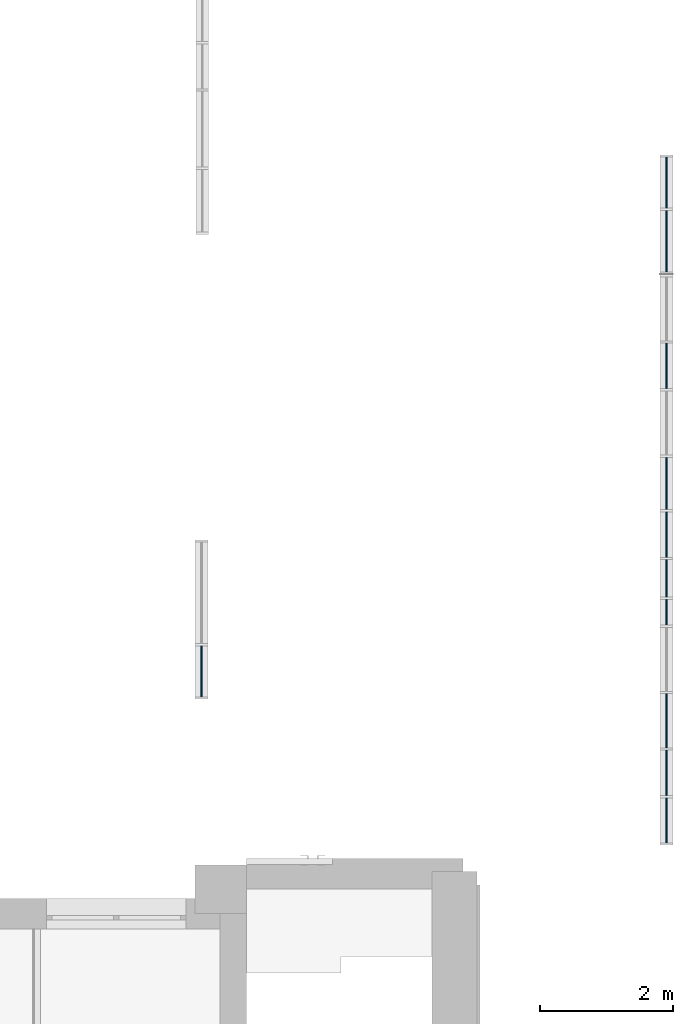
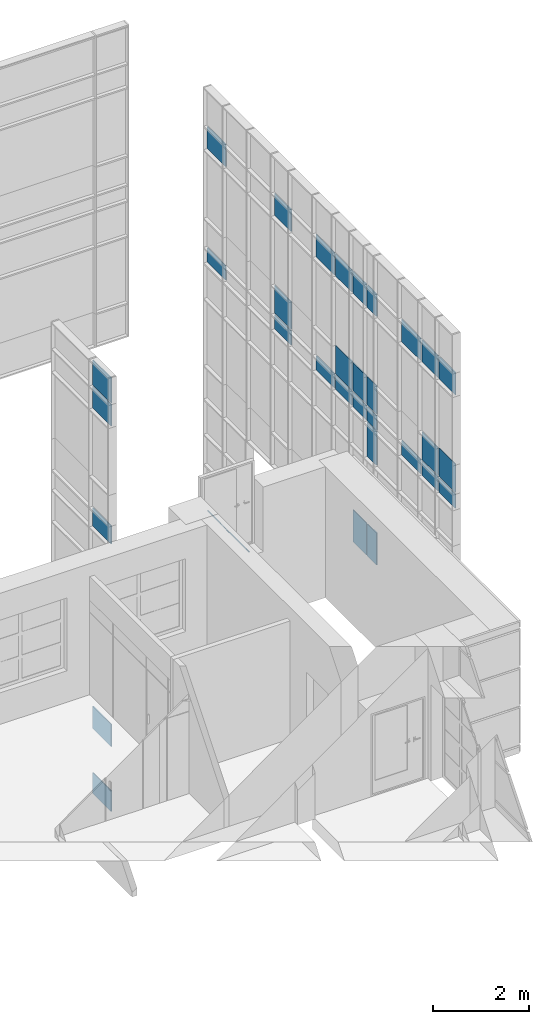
# One storey, part 43 of 73: 34 plates, 2 elements without a shape of their own.
"""IFC2X3 building model written with IfcOpenShell, lengths in millimetres."""

from ifc_helpers import new_model, entity, si_unit, converted_unit, derived_unit, direction, frame, origin, origin_2d_with_axis, place, context, subcontext, project, spatial, rectangle, extrude, source, transform, mapped, material, layer, layer_set, layer_usage, type_object, type_shapes, element, aggregate, save


model = new_model("IFC2X3")

# Units and contexts
model_context = context("Model", 3, precision=0.01, world=origin(), true_north=direction((6.12303176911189e-17, 1.0)))
body_context = subcontext(model_context, "Body", "Model", "MODEL_VIEW")
ifc_project = project(units=[si_unit("LENGTHUNIT", "METRE", prefix="MILLI"), si_unit("AREAUNIT", "SQUARE_METRE"), si_unit("VOLUMEUNIT", "CUBIC_METRE"), converted_unit("PLANEANGLEUNIT", "DEGREE", entity("IfcRatioMeasure", 0.0174532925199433), si_unit("PLANEANGLEUNIT", "RADIAN"), dimensions=[0, 0, 0, 0, 0, 0, 0]), si_unit("MASSUNIT", "GRAM", prefix="KILO"), derived_unit("MASSDENSITYUNIT", [(si_unit("MASSUNIT", "GRAM", prefix="KILO"), 1), (si_unit("LENGTHUNIT", "METRE"), -3)]), si_unit("TIMEUNIT", "SECOND"), si_unit("FREQUENCYUNIT", "HERTZ"), si_unit("THERMODYNAMICTEMPERATUREUNIT", "DEGREE_CELSIUS"), derived_unit("THERMALTRANSMITTANCEUNIT", [(si_unit("MASSUNIT", "GRAM", prefix="KILO"), 1), (si_unit("THERMODYNAMICTEMPERATUREUNIT", "KELVIN"), -1), (si_unit("TIMEUNIT", "SECOND"), -3)]), derived_unit("VOLUMETRICFLOWRATEUNIT", [(si_unit("LENGTHUNIT", "METRE"), 3), (si_unit("TIMEUNIT", "SECOND"), -1)]), si_unit("ELECTRICCURRENTUNIT", "AMPERE"), si_unit("ELECTRICVOLTAGEUNIT", "VOLT"), si_unit("POWERUNIT", "WATT"), si_unit("FORCEUNIT", "NEWTON", prefix="KILO"), si_unit("ILLUMINANCEUNIT", "LUX"), si_unit("LUMINOUSFLUXUNIT", "LUMEN"), si_unit("LUMINOUSINTENSITYUNIT", "CANDELA"), derived_unit("USERDEFINED", [(si_unit("MASSUNIT", "GRAM", prefix="KILO"), -1), (si_unit("LENGTHUNIT", "METRE"), -2), (si_unit("TIMEUNIT", "SECOND"), 3), (si_unit("LUMINOUSFLUXUNIT", "LUMEN"), 1)]), derived_unit("LINEARVELOCITYUNIT", [(si_unit("LENGTHUNIT", "METRE"), 1), (si_unit("TIMEUNIT", "SECOND"), -1)]), si_unit("PRESSUREUNIT", "PASCAL"), derived_unit("USERDEFINED", [(si_unit("LENGTHUNIT", "METRE"), -2), (si_unit("MASSUNIT", "GRAM", prefix="KILO"), 1), (si_unit("TIMEUNIT", "SECOND"), -2)])], contexts=[model_context])

# Site, building, storey
site_placement = place(None, frame((-151.875543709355, 2715.0, 0.0)))
site = spatial("IfcSite", under=ifc_project, at=site_placement, Name="Surface", CompositionType="ELEMENT")
building_placement = place(site_placement, origin())
building = spatial("IfcBuilding", under=site, at=building_placement, CompositionType="ELEMENT")
storey_placement = place(building_placement, frame((0.0, 0.0, 6730.43000000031)))
storey = spatial("IfcBuildingStorey", under=building, at=storey_placement, Name="3 korrus", CompositionType="ELEMENT", Elevation=6730.43000000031)

# Curtain wall, plates
curtain_wall_type = type_object("IfcCurtainWallType", Name="Curtain Wall:Klaasfassaad", PredefinedType="NOTDEFINED")
curtain_wall_1_placement = place(storey_placement, frame((0.0, 0.0, -6730.43000000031)))
curtain_wall_1 = element("IfcCurtainWall", 1, at=curtain_wall_1_placement, inside=storey, type_object=curtain_wall_type, Name="Curtain Wall:Klaasfassaad", ObjectType="Curtain Wall:Klaasfassaad")
ifc_material = material(Name="<Unnamed>")
ifc_layer = layer(ifc_material, 20.0)
ifc_layer_set = layer_set([ifc_layer], Name="Curtain Wall:Klaassein KLS-01")
ifc_layer_usage_1 = layer_usage(ifc_layer_set, "AXIS3", "POSITIVE", 0.0)
plate_type_1 = type_object("IfcPlateType", Name="Glazed", PredefinedType="CURTAIN_PANEL", material=ifc_layer_set)
shared_shape_1 = source(origin(), body_context, "Body", "SweptSolid", [
    extrude(rectangle(XDim=20.0, YDim=927.500026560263, at=origin_2d_with_axis()), frame((0.0, 0.0, 0.0), z_axis=(0.0, 0.0, 1.0), x_axis=(0.0, 1.0, 0.0)), (0.0, 0.0, 1.0), 5.57226994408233),
])
type_shapes(plate_type_1, [shared_shape_1])
plate_1_placement = place(curtain_wall_1_placement, frame((38701.6162681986, 22509.250443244, 1014.42774474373), z_axis=(0.0, 0.0, 1.0), x_axis=(0.0, 1.0, 0.0)))
plate_1 = element("IfcPlate", 2, at=plate_1_placement, type_object=plate_type_1, material=ifc_layer_usage_1, Name="System Panel:Glazed", ObjectType="Glazed", context=body_context, shape_type="MappedRepresentation", body=[
    mapped(shared_shape_1, transform((0.0, 0.0, 0.0), scale=1.0)),
])
ifc_layer_usage_2 = layer_usage(ifc_layer_set, "AXIS3", "POSITIVE", 0.0)
plate_type_2 = type_object("IfcPlateType", Name="Glazed", PredefinedType="CURTAIN_PANEL", material=ifc_layer_set)
shared_shape_2 = source(origin(), body_context, "Body", "SweptSolid", [
    extrude(rectangle(XDim=20.0, YDim=767.500000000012, at=origin_2d_with_axis()), frame((0.0, 0.0, 0.0), z_axis=(0.0, 0.0, 1.0), x_axis=(0.0, 1.0, 0.0)), (0.0, 0.0, 1.0), 5.5722699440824),
])
type_shapes(plate_type_2, [shared_shape_2])
plate_2_placement = place(curtain_wall_1_placement, frame((38701.6162681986, 23391.7504565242, 1014.42774474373), z_axis=(0.0, 0.0, 1.0), x_axis=(0.0, 1.0, 0.0)))
plate_2 = element("IfcPlate", 3, at=plate_2_placement, type_object=plate_type_2, material=ifc_layer_usage_2, Name="System Panel:Glazed", ObjectType="Glazed", context=body_context, shape_type="MappedRepresentation", body=[
    mapped(shared_shape_2, transform((0.0, 0.0, 0.0), scale=1.0)),
])
ifc_layer_usage_3 = layer_usage(ifc_layer_set, "AXIS3", "POSITIVE", 0.0)
plate_type_3 = type_object("IfcPlateType", Name="Glazed", PredefinedType="CURTAIN_PANEL", material=ifc_layer_set)
shared_shape_3 = source(origin(), body_context, "Body", "SweptSolid", [
    extrude(rectangle(XDim=20.0, YDim=384.999999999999, at=origin_2d_with_axis()), frame((0.0, 0.0, 0.0), z_axis=(0.0, 0.0, 1.0), x_axis=(0.0, 1.0, 0.0)), (0.0, 0.0, 1.0), 815.159729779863),
])
type_shapes(plate_type_3, [shared_shape_3])
plate_3_placement = place(curtain_wall_1_placement, frame((38701.6162681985, 16920.5004565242, 3909.42773967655), z_axis=(0.0, 0.0, 1.0), x_axis=(0.0, 1.0, 0.0)))
plate_3 = element("IfcPlate", 4, at=plate_3_placement, type_object=plate_type_3, material=ifc_layer_usage_3, Name="System Panel:Glazed", ObjectType="Glazed", context=body_context, shape_type="MappedRepresentation", body=[
    mapped(shared_shape_3, transform((0.0, 0.0, 0.0), scale=1.0)),
])
ifc_layer_usage_4 = layer_usage(ifc_layer_set, "AXIS3", "POSITIVE", 0.0)
plate_type_4 = type_object("IfcPlateType", Name="Glazed", PredefinedType="CURTAIN_PANEL", material=ifc_layer_set)
shared_shape_4 = source(origin(), body_context, "Body", "SweptSolid", [
    extrude(rectangle(XDim=20.0, YDim=564.999999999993, at=origin_2d_with_axis()), frame((0.0, 0.0, 0.0), z_axis=(0.0, 0.0, 1.0), x_axis=(0.0, 1.0, 0.0)), (0.0, 0.0, 1.0), 815.159729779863),
])
type_shapes(plate_type_4, [shared_shape_4])
plate_4_placement = place(curtain_wall_1_placement, frame((38701.6162681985, 17430.5004565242, 3909.42773967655), z_axis=(0.0, 0.0, 1.0), x_axis=(0.0, 1.0, 0.0)))
plate_4 = element("IfcPlate", 5, at=plate_4_placement, type_object=plate_type_4, material=ifc_layer_usage_4, Name="System Panel:Glazed", ObjectType="Glazed", context=body_context, shape_type="MappedRepresentation", body=[
    mapped(shared_shape_4, transform((0.0, 0.0, 0.0), scale=1.0)),
])
ifc_layer_usage_5 = layer_usage(ifc_layer_set, "AXIS3", "POSITIVE", 0.0)
plate_type_5 = type_object("IfcPlateType", Name="Glazed", PredefinedType="CURTAIN_PANEL", material=ifc_layer_set)
shared_shape_5 = source(origin(), body_context, "Body", "SweptSolid", [
    extrude(rectangle(XDim=20.0, YDim=384.999999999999, at=origin_2d_with_axis()), frame((0.0, 0.0, 0.0), z_axis=(0.0, 0.0, 1.0), x_axis=(0.0, 1.0, 0.0)), (0.0, 0.0, 1.0), 865.0),
])
type_shapes(plate_type_5, [shared_shape_5])
plate_5_placement = place(curtain_wall_1_placement, frame((38701.6162681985, 16920.5004565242, 6442.40692901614), z_axis=(0.0, 0.0, 1.0), x_axis=(0.0, 1.0, 0.0)))
plate_5 = element("IfcPlate", 6, at=plate_5_placement, type_object=plate_type_5, material=ifc_layer_usage_5, Name="System Panel:Glazed", ObjectType="Glazed", context=body_context, shape_type="MappedRepresentation", body=[
    mapped(shared_shape_5, transform((0.0, 0.0, 0.0), scale=1.0)),
])
ifc_layer_usage_6 = layer_usage(ifc_layer_set, "AXIS3", "POSITIVE", 0.0)
plate_type_6 = type_object("IfcPlateType", Name="Glazed", PredefinedType="CURTAIN_PANEL", material=ifc_layer_set)
shared_shape_6 = source(origin(), body_context, "Body", "SweptSolid", [
    extrude(rectangle(XDim=20.0, YDim=677.500026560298, at=origin_2d_with_axis()), frame((0.0, 0.0, 0.0), z_axis=(0.0, 0.0, 1.0), x_axis=(0.0, 1.0, 0.0)), (0.0, 0.0, 1.0), 364.999999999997),
])
type_shapes(plate_type_6, [shared_shape_6])
plate_6_placement = place(curtain_wall_1_placement, frame((38701.6162681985, 13784.2504432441, 7342.40692901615), z_axis=(0.0, 0.0, 1.0), x_axis=(0.0, 1.0, 0.0)))
plate_6 = element("IfcPlate", 7, at=plate_6_placement, type_object=plate_type_6, material=ifc_layer_usage_6, Name="System Panel:Glazed", ObjectType="Glazed", context=body_context, shape_type="MappedRepresentation", body=[
    mapped(shared_shape_6, transform((0.0, 0.0, 0.0), scale=1.0)),
])
ifc_layer_usage_7 = layer_usage(ifc_layer_set, "AXIS3", "POSITIVE", 0.0)
plate_type_7 = type_object("IfcPlateType", Name="Glazed", PredefinedType="CURTAIN_PANEL", material=ifc_layer_set)
shared_shape_7 = source(origin(), body_context, "Body", "SweptSolid", [
    extrude(rectangle(XDim=20.0, YDim=684.999999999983, at=origin_2d_with_axis()), frame((0.0, 0.0, 0.0), z_axis=(0.0, 0.0, 1.0), x_axis=(0.0, 1.0, 0.0)), (0.0, 0.0, 1.0), 364.999999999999),
])
type_shapes(plate_type_7, [shared_shape_7])
plate_7_placement = place(curtain_wall_1_placement, frame((38701.6162681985, 14500.5004565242, 7342.40692901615), z_axis=(0.0, 0.0, 1.0), x_axis=(0.0, 1.0, 0.0)))
plate_7 = element("IfcPlate", 8, at=plate_7_placement, type_object=plate_type_7, material=ifc_layer_usage_7, Name="System Panel:Glazed", ObjectType="Glazed", context=body_context, shape_type="MappedRepresentation", body=[
    mapped(shared_shape_7, transform((0.0, 0.0, 0.0), scale=1.0)),
])
ifc_layer_usage_8 = layer_usage(ifc_layer_set, "AXIS3", "POSITIVE", 0.0)
plate_8_placement = place(curtain_wall_1_placement, frame((38701.6162681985, 18090.5004565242, 7342.40692901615), z_axis=(0.0, 0.0, 1.0), x_axis=(0.0, 1.0, 0.0)))
plate_8 = element("IfcPlate", 9, at=plate_8_placement, type_object=plate_type_7, material=ifc_layer_usage_8, Name="System Panel:Glazed", ObjectType="Glazed", context=body_context, shape_type="MappedRepresentation", body=[
    mapped(shared_shape_7, transform((0.0, 0.0, 0.0), scale=1.0)),
])
ifc_layer_usage_9 = layer_usage(ifc_layer_set, "AXIS3", "POSITIVE", 0.0)
plate_9_placement = place(curtain_wall_1_placement, frame((38701.6162681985, 20630.5004565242, 7342.40692901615), z_axis=(0.0, 0.0, 1.0), x_axis=(0.0, 1.0, 0.0)))
plate_9 = element("IfcPlate", 10, at=plate_9_placement, type_object=plate_type_7, material=ifc_layer_usage_9, Name="System Panel:Glazed", ObjectType="Glazed", context=body_context, shape_type="MappedRepresentation", body=[
    mapped(shared_shape_7, transform((0.0, 0.0, 0.0), scale=1.0)),
])
ifc_layer_usage_10 = layer_usage(ifc_layer_set, "AXIS3", "POSITIVE", 0.0)
plate_type_8 = type_object("IfcPlateType", Name="Glazed", PredefinedType="CURTAIN_PANEL", material=ifc_layer_set)
shared_shape_8 = source(origin(), body_context, "Body", "SweptSolid", [
    extrude(rectangle(XDim=20.0, YDim=814.999999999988, at=origin_2d_with_axis()), frame((0.0, 0.0, 0.0), z_axis=(0.0, 0.0, 1.0), x_axis=(0.0, 1.0, 0.0)), (0.0, 0.0, 1.0), 364.999999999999),
])
type_shapes(plate_type_8, [shared_shape_8])
plate_10_placement = place(curtain_wall_1_placement, frame((38701.6162681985, 15285.5004565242, 7342.40692901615), z_axis=(0.0, 0.0, 1.0), x_axis=(0.0, 1.0, 0.0)))
plate_10 = element("IfcPlate", 11, at=plate_10_placement, type_object=plate_type_8, material=ifc_layer_usage_10, Name="System Panel:Glazed", ObjectType="Glazed", context=body_context, shape_type="MappedRepresentation", body=[
    mapped(shared_shape_8, transform((0.0, 0.0, 0.0), scale=1.0)),
])
ifc_layer_usage_11 = layer_usage(ifc_layer_set, "AXIS3", "POSITIVE", 0.0)
plate_type_9 = type_object("IfcPlateType", Name="Glazed", PredefinedType="CURTAIN_PANEL", material=ifc_layer_set)
shared_shape_9 = source(origin(), body_context, "Body", "SweptSolid", [
    extrude(rectangle(XDim=20.0, YDim=384.999999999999, at=origin_2d_with_axis()), frame((0.0, 0.0, 0.0), z_axis=(0.0, 0.0, 1.0), x_axis=(0.0, 1.0, 0.0)), (0.0, 0.0, 1.0), 364.999999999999),
])
type_shapes(plate_type_9, [shared_shape_9])
plate_11_placement = place(curtain_wall_1_placement, frame((38701.6162681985, 16920.5004565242, 7342.40692901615), z_axis=(0.0, 0.0, 1.0), x_axis=(0.0, 1.0, 0.0)))
plate_11 = element("IfcPlate", 12, at=plate_11_placement, type_object=plate_type_9, material=ifc_layer_usage_11, Name="System Panel:Glazed", ObjectType="Glazed", context=body_context, shape_type="MappedRepresentation", body=[
    mapped(shared_shape_9, transform((0.0, 0.0, 0.0), scale=1.0)),
])
ifc_layer_usage_12 = layer_usage(ifc_layer_set, "AXIS3", "POSITIVE", 0.0)
plate_type_10 = type_object("IfcPlateType", Name="Glazed", PredefinedType="CURTAIN_PANEL", material=ifc_layer_set)
shared_shape_10 = source(origin(), body_context, "Body", "SweptSolid", [
    extrude(rectangle(XDim=20.0, YDim=564.999999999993, at=origin_2d_with_axis()), frame((0.0, 0.0, 0.0), z_axis=(0.0, 0.0, 1.0), x_axis=(0.0, 1.0, 0.0)), (0.0, 0.0, 1.0), 364.999999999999),
])
type_shapes(plate_type_10, [shared_shape_10])
plate_12_placement = place(curtain_wall_1_placement, frame((38701.6162681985, 17430.5004565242, 7342.40692901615), z_axis=(0.0, 0.0, 1.0), x_axis=(0.0, 1.0, 0.0)))
plate_12 = element("IfcPlate", 13, at=plate_12_placement, type_object=plate_type_10, material=ifc_layer_usage_12, Name="System Panel:Glazed", ObjectType="Glazed", context=body_context, shape_type="MappedRepresentation", body=[
    mapped(shared_shape_10, transform((0.0, 0.0, 0.0), scale=1.0)),
])
ifc_layer_usage_13 = layer_usage(ifc_layer_set, "AXIS3", "POSITIVE", 0.0)
plate_type_11 = type_object("IfcPlateType", Name="Glazed", PredefinedType="CURTAIN_PANEL", material=ifc_layer_set)
shared_shape_11 = source(origin(), body_context, "Body", "SweptSolid", [
    extrude(rectangle(XDim=20.0, YDim=784.999999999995, at=origin_2d_with_axis()), frame((0.0, 0.0, 0.0), z_axis=(0.0, 0.0, 1.0), x_axis=(0.0, 1.0, 0.0)), (0.0, 0.0, 1.0), 364.999999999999),
])
type_shapes(plate_type_11, [shared_shape_11])
plate_13_placement = place(curtain_wall_1_placement, frame((38701.6162681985, 18860.5004565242, 7342.40692901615), z_axis=(0.0, 0.0, 1.0), x_axis=(0.0, 1.0, 0.0)))
plate_13 = element("IfcPlate", 14, at=plate_13_placement, type_object=plate_type_11, material=ifc_layer_usage_13, Name="System Panel:Glazed", ObjectType="Glazed", context=body_context, shape_type="MappedRepresentation", body=[
    mapped(shared_shape_11, transform((0.0, 0.0, 0.0), scale=1.0)),
])
ifc_layer_usage_14 = layer_usage(ifc_layer_set, "AXIS3", "POSITIVE", 0.0)
plate_type_12 = type_object("IfcPlateType", Name="Glazed", PredefinedType="CURTAIN_PANEL", material=ifc_layer_set)
shared_shape_12 = source(origin(), body_context, "Body", "SweptSolid", [
    extrude(rectangle(XDim=20.0, YDim=767.500000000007, at=origin_2d_with_axis()), frame((0.0, 0.0, 0.0), z_axis=(0.0, 0.0, 1.0), x_axis=(0.0, 1.0, 0.0)), (0.0, 0.0, 1.0), 364.999999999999),
])
type_shapes(plate_type_12, [shared_shape_12])
plate_14_placement = place(curtain_wall_1_placement, frame((38701.6162681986, 23391.7504565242, 7342.40692901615), z_axis=(0.0, 0.0, 1.0), x_axis=(0.0, 1.0, 0.0)))
plate_14 = element("IfcPlate", 15, at=plate_14_placement, type_object=plate_type_12, material=ifc_layer_usage_14, Name="System Panel:Glazed", ObjectType="Glazed", context=body_context, shape_type="MappedRepresentation", body=[
    mapped(shared_shape_12, transform((0.0, 0.0, 0.0), scale=1.0)),
])
ifc_layer_usage_15 = layer_usage(ifc_layer_set, "AXIS3", "POSITIVE", 0.0)
plate_type_13 = type_object("IfcPlateType", Name="Glazed", PredefinedType="CURTAIN_PANEL", material=ifc_layer_set)
shared_shape_13 = source(origin(), body_context, "Body", "SweptSolid", [
    extrude(rectangle(XDim=20.0, YDim=677.500026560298, at=origin_2d_with_axis()), frame((0.0, 0.0, 0.0), z_axis=(0.0, 0.0, 1.0), x_axis=(0.0, 1.0, 0.0)), (0.0, 0.0, 1.0), 722.500000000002),
])
type_shapes(plate_type_13, [shared_shape_13])
plate_15_placement = place(curtain_wall_1_placement, frame((38701.6162681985, 13784.2504432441, 7742.40692901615), z_axis=(0.0, 0.0, 1.0), x_axis=(0.0, 1.0, 0.0)))
plate_15 = element("IfcPlate", 16, at=plate_15_placement, type_object=plate_type_13, material=ifc_layer_usage_15, Name="System Panel:Glazed", ObjectType="Glazed", context=body_context, shape_type="MappedRepresentation", body=[
    mapped(shared_shape_13, transform((0.0, 0.0, 0.0), scale=1.0)),
])
ifc_layer_usage_16 = layer_usage(ifc_layer_set, "AXIS3", "POSITIVE", 0.0)
plate_type_14 = type_object("IfcPlateType", Name="Glazed", PredefinedType="CURTAIN_PANEL", material=ifc_layer_set)
shared_shape_14 = source(origin(), body_context, "Body", "SweptSolid", [
    extrude(rectangle(XDim=20.0, YDim=684.999999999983, at=origin_2d_with_axis()), frame((0.0, 0.0, 0.0), z_axis=(0.0, 0.0, 1.0), x_axis=(0.0, 1.0, 0.0)), (0.0, 0.0, 1.0), 705.0),
])
type_shapes(plate_type_14, [shared_shape_14])
plate_16_placement = place(curtain_wall_1_placement, frame((38701.6162681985, 14500.5004565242, 7742.40692901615), z_axis=(0.0, 0.0, 1.0), x_axis=(0.0, 1.0, 0.0)))
plate_16 = element("IfcPlate", 17, at=plate_16_placement, type_object=plate_type_14, material=ifc_layer_usage_16, Name="System Panel:Glazed", ObjectType="Glazed", context=body_context, shape_type="MappedRepresentation", body=[
    mapped(shared_shape_14, transform((0.0, 0.0, 0.0), scale=1.0)),
])
ifc_layer_usage_17 = layer_usage(ifc_layer_set, "AXIS3", "POSITIVE", 0.0)
plate_17_placement = place(curtain_wall_1_placement, frame((38701.6162681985, 20630.5004565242, 7742.40692901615), z_axis=(0.0, 0.0, 1.0), x_axis=(0.0, 1.0, 0.0)))
plate_17 = element("IfcPlate", 18, at=plate_17_placement, type_object=plate_type_14, material=ifc_layer_usage_17, Name="System Panel:Glazed", ObjectType="Glazed", context=body_context, shape_type="MappedRepresentation", body=[
    mapped(shared_shape_14, transform((0.0, 0.0, 0.0), scale=1.0)),
])
ifc_layer_usage_18 = layer_usage(ifc_layer_set, "AXIS3", "POSITIVE", 0.0)
plate_type_15 = type_object("IfcPlateType", Name="Glazed", PredefinedType="CURTAIN_PANEL", material=ifc_layer_set)
shared_shape_15 = source(origin(), body_context, "Body", "SweptSolid", [
    extrude(rectangle(XDim=20.0, YDim=384.999999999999, at=origin_2d_with_axis()), frame((0.0, 0.0, 0.0), z_axis=(0.0, 0.0, 1.0), x_axis=(0.0, 1.0, 0.0)), (0.0, 0.0, 1.0), 722.5),
])
type_shapes(plate_type_15, [shared_shape_15])
plate_18_placement = place(curtain_wall_1_placement, frame((38701.6162681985, 16920.5004565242, 7742.40692901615), z_axis=(0.0, 0.0, 1.0), x_axis=(0.0, 1.0, 0.0)))
plate_18 = element("IfcPlate", 19, at=plate_18_placement, type_object=plate_type_15, material=ifc_layer_usage_18, Name="System Panel:Glazed", ObjectType="Glazed", context=body_context, shape_type="MappedRepresentation", body=[
    mapped(shared_shape_15, transform((0.0, 0.0, 0.0), scale=1.0)),
])
ifc_layer_usage_19 = layer_usage(ifc_layer_set, "AXIS3", "POSITIVE", 0.0)
plate_type_16 = type_object("IfcPlateType", Name="Glazed", PredefinedType="CURTAIN_PANEL", material=ifc_layer_set)
shared_shape_16 = source(origin(), body_context, "Body", "SweptSolid", [
    extrude(rectangle(XDim=20.0, YDim=564.999999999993, at=origin_2d_with_axis()), frame((0.0, 0.0, 0.0), z_axis=(0.0, 0.0, 1.0), x_axis=(0.0, 1.0, 0.0)), (0.0, 0.0, 1.0), 722.5),
])
type_shapes(plate_type_16, [shared_shape_16])
plate_19_placement = place(curtain_wall_1_placement, frame((38701.6162681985, 17430.5004565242, 7742.40692901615), z_axis=(0.0, 0.0, 1.0), x_axis=(0.0, 1.0, 0.0)))
plate_19 = element("IfcPlate", 20, at=plate_19_placement, type_object=plate_type_16, material=ifc_layer_usage_19, Name="System Panel:Glazed", ObjectType="Glazed", context=body_context, shape_type="MappedRepresentation", body=[
    mapped(shared_shape_16, transform((0.0, 0.0, 0.0), scale=1.0)),
])
ifc_layer_usage_20 = layer_usage(ifc_layer_set, "AXIS3", "POSITIVE", 0.0)
plate_type_17 = type_object("IfcPlateType", Name="Glazed", PredefinedType="CURTAIN_PANEL", material=ifc_layer_set)
shared_shape_17 = source(origin(), body_context, "Body", "SweptSolid", [
    extrude(rectangle(XDim=20.0, YDim=684.999999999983, at=origin_2d_with_axis()), frame((0.0, 0.0, 0.0), z_axis=(0.0, 0.0, 1.0), x_axis=(0.0, 1.0, 0.0)), (0.0, 0.0, 1.0), 722.5),
])
type_shapes(plate_type_17, [shared_shape_17])
plate_20_placement = place(curtain_wall_1_placement, frame((38701.6162681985, 18090.5004565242, 7742.40692901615), z_axis=(0.0, 0.0, 1.0), x_axis=(0.0, 1.0, 0.0)))
plate_20 = element("IfcPlate", 21, at=plate_20_placement, type_object=plate_type_17, material=ifc_layer_usage_20, Name="System Panel:Glazed", ObjectType="Glazed", context=body_context, shape_type="MappedRepresentation", body=[
    mapped(shared_shape_17, transform((0.0, 0.0, 0.0), scale=1.0)),
])
ifc_layer_usage_21 = layer_usage(ifc_layer_set, "AXIS3", "POSITIVE", 0.0)
plate_type_18 = type_object("IfcPlateType", Name="Glazed", PredefinedType="CURTAIN_PANEL", material=ifc_layer_set)
shared_shape_18 = source(origin(), body_context, "Body", "SweptSolid", [
    extrude(rectangle(XDim=20.0, YDim=677.500026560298, at=origin_2d_with_axis()), frame((0.0, 0.0, 0.0), z_axis=(0.0, 0.0, 1.0), x_axis=(0.0, 1.0, 0.0)), (0.0, 0.0, 1.0), 564.999999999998),
])
type_shapes(plate_type_18, [shared_shape_18])
plate_21_placement = place(curtain_wall_1_placement, frame((38701.6162681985, 13784.2504432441, 10222.4069290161), z_axis=(0.0, 0.0, 1.0), x_axis=(0.0, 1.0, 0.0)))
plate_21 = element("IfcPlate", 22, at=plate_21_placement, type_object=plate_type_18, material=ifc_layer_usage_21, Name="System Panel:Glazed", ObjectType="Glazed", context=body_context, shape_type="MappedRepresentation", body=[
    mapped(shared_shape_18, transform((0.0, 0.0, 0.0), scale=1.0)),
])
ifc_layer_usage_22 = layer_usage(ifc_layer_set, "AXIS3", "POSITIVE", 0.0)
plate_type_19 = type_object("IfcPlateType", Name="Glazed", PredefinedType="CURTAIN_PANEL", material=ifc_layer_set)
shared_shape_19 = source(origin(), body_context, "Body", "SweptSolid", [
    extrude(rectangle(XDim=20.0, YDim=684.999999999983, at=origin_2d_with_axis()), frame((0.0, 0.0, 0.0), z_axis=(0.0, 0.0, 1.0), x_axis=(0.0, 1.0, 0.0)), (0.0, 0.0, 1.0), 564.999999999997),
])
type_shapes(plate_type_19, [shared_shape_19])
plate_22_placement = place(curtain_wall_1_placement, frame((38701.6162681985, 14500.5004565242, 10222.4069290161), z_axis=(0.0, 0.0, 1.0), x_axis=(0.0, 1.0, 0.0)))
plate_22 = element("IfcPlate", 23, at=plate_22_placement, type_object=plate_type_19, material=ifc_layer_usage_22, Name="System Panel:Glazed", ObjectType="Glazed", context=body_context, shape_type="MappedRepresentation", body=[
    mapped(shared_shape_19, transform((0.0, 0.0, 0.0), scale=1.0)),
])
ifc_layer_usage_23 = layer_usage(ifc_layer_set, "AXIS3", "POSITIVE", 0.0)
plate_23_placement = place(curtain_wall_1_placement, frame((38701.6162681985, 18090.5004565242, 10222.4069290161), z_axis=(0.0, 0.0, 1.0), x_axis=(0.0, 1.0, 0.0)))
plate_23 = element("IfcPlate", 24, at=plate_23_placement, type_object=plate_type_19, material=ifc_layer_usage_23, Name="System Panel:Glazed", ObjectType="Glazed", context=body_context, shape_type="MappedRepresentation", body=[
    mapped(shared_shape_19, transform((0.0, 0.0, 0.0), scale=1.0)),
])
ifc_layer_usage_24 = layer_usage(ifc_layer_set, "AXIS3", "POSITIVE", 0.0)
plate_24_placement = place(curtain_wall_1_placement, frame((38701.6162681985, 20630.5004565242, 10222.4069290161), z_axis=(0.0, 0.0, 1.0), x_axis=(0.0, 1.0, 0.0)))
plate_24 = element("IfcPlate", 25, at=plate_24_placement, type_object=plate_type_19, material=ifc_layer_usage_24, Name="System Panel:Glazed", ObjectType="Glazed", context=body_context, shape_type="MappedRepresentation", body=[
    mapped(shared_shape_19, transform((0.0, 0.0, 0.0), scale=1.0)),
])
ifc_layer_usage_25 = layer_usage(ifc_layer_set, "AXIS3", "POSITIVE", 0.0)
plate_type_20 = type_object("IfcPlateType", Name="Glazed", PredefinedType="CURTAIN_PANEL", material=ifc_layer_set)
shared_shape_20 = source(origin(), body_context, "Body", "SweptSolid", [
    extrude(rectangle(XDim=20.0, YDim=814.999999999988, at=origin_2d_with_axis()), frame((0.0, 0.0, 0.0), z_axis=(0.0, 0.0, 1.0), x_axis=(0.0, 1.0, 0.0)), (0.0, 0.0, 1.0), 564.999999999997),
])
type_shapes(plate_type_20, [shared_shape_20])
plate_25_placement = place(curtain_wall_1_placement, frame((38701.6162681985, 15285.5004565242, 10222.4069290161), z_axis=(0.0, 0.0, 1.0), x_axis=(0.0, 1.0, 0.0)))
plate_25 = element("IfcPlate", 26, at=plate_25_placement, type_object=plate_type_20, material=ifc_layer_usage_25, Name="System Panel:Glazed", ObjectType="Glazed", context=body_context, shape_type="MappedRepresentation", body=[
    mapped(shared_shape_20, transform((0.0, 0.0, 0.0), scale=1.0)),
])
ifc_layer_usage_26 = layer_usage(ifc_layer_set, "AXIS3", "POSITIVE", 0.0)
plate_type_21 = type_object("IfcPlateType", Name="Glazed", PredefinedType="CURTAIN_PANEL", material=ifc_layer_set)
shared_shape_21 = source(origin(), body_context, "Body", "SweptSolid", [
    extrude(rectangle(XDim=20.0, YDim=384.999999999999, at=origin_2d_with_axis()), frame((0.0, 0.0, 0.0), z_axis=(0.0, 0.0, 1.0), x_axis=(0.0, 1.0, 0.0)), (0.0, 0.0, 1.0), 564.999999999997),
])
type_shapes(plate_type_21, [shared_shape_21])
plate_26_placement = place(curtain_wall_1_placement, frame((38701.6162681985, 16920.5004565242, 10222.4069290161), z_axis=(0.0, 0.0, 1.0), x_axis=(0.0, 1.0, 0.0)))
plate_26 = element("IfcPlate", 27, at=plate_26_placement, type_object=plate_type_21, material=ifc_layer_usage_26, Name="System Panel:Glazed", ObjectType="Glazed", context=body_context, shape_type="MappedRepresentation", body=[
    mapped(shared_shape_21, transform((0.0, 0.0, 0.0), scale=1.0)),
])
ifc_layer_usage_27 = layer_usage(ifc_layer_set, "AXIS3", "POSITIVE", 0.0)
plate_type_22 = type_object("IfcPlateType", Name="Glazed", PredefinedType="CURTAIN_PANEL", material=ifc_layer_set)
shared_shape_22 = source(origin(), body_context, "Body", "SweptSolid", [
    extrude(rectangle(XDim=20.0, YDim=564.999999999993, at=origin_2d_with_axis()), frame((0.0, 0.0, 0.0), z_axis=(0.0, 0.0, 1.0), x_axis=(0.0, 1.0, 0.0)), (0.0, 0.0, 1.0), 564.999999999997),
])
type_shapes(plate_type_22, [shared_shape_22])
plate_27_placement = place(curtain_wall_1_placement, frame((38701.6162681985, 17430.5004565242, 10222.4069290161), z_axis=(0.0, 0.0, 1.0), x_axis=(0.0, 1.0, 0.0)))
plate_27 = element("IfcPlate", 28, at=plate_27_placement, type_object=plate_type_22, material=ifc_layer_usage_27, Name="System Panel:Glazed", ObjectType="Glazed", context=body_context, shape_type="MappedRepresentation", body=[
    mapped(shared_shape_22, transform((0.0, 0.0, 0.0), scale=1.0)),
])
ifc_layer_usage_28 = layer_usage(ifc_layer_set, "AXIS3", "POSITIVE", 0.0)
plate_type_23 = type_object("IfcPlateType", Name="Glazed", PredefinedType="CURTAIN_PANEL", material=ifc_layer_set)
shared_shape_23 = source(origin(), body_context, "Body", "SweptSolid", [
    extrude(rectangle(XDim=20.0, YDim=784.999999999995, at=origin_2d_with_axis()), frame((0.0, 0.0, 0.0), z_axis=(0.0, 0.0, 1.0), x_axis=(0.0, 1.0, 0.0)), (0.0, 0.0, 1.0), 564.999999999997),
])
type_shapes(plate_type_23, [shared_shape_23])
plate_28_placement = place(curtain_wall_1_placement, frame((38701.6162681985, 18860.5004565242, 10222.4069290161), z_axis=(0.0, 0.0, 1.0), x_axis=(0.0, 1.0, 0.0)))
plate_28 = element("IfcPlate", 29, at=plate_28_placement, type_object=plate_type_23, material=ifc_layer_usage_28, Name="System Panel:Glazed", ObjectType="Glazed", context=body_context, shape_type="MappedRepresentation", body=[
    mapped(shared_shape_23, transform((0.0, 0.0, 0.0), scale=1.0)),
])
ifc_layer_usage_29 = layer_usage(ifc_layer_set, "AXIS3", "POSITIVE", 0.0)
plate_type_24 = type_object("IfcPlateType", Name="Glazed", PredefinedType="CURTAIN_PANEL", material=ifc_layer_set)
shared_shape_24 = source(origin(), body_context, "Body", "SweptSolid", [
    extrude(rectangle(XDim=20.0, YDim=767.500000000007, at=origin_2d_with_axis()), frame((0.0, 0.0, 0.0), z_axis=(0.0, 0.0, 1.0), x_axis=(0.0, 1.0, 0.0)), (0.0, 0.0, 1.0), 564.999999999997),
])
type_shapes(plate_type_24, [shared_shape_24])
plate_29_placement = place(curtain_wall_1_placement, frame((38701.6162681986, 23391.7504565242, 10222.4069290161), z_axis=(0.0, 0.0, 1.0), x_axis=(0.0, 1.0, 0.0)))
plate_29 = element("IfcPlate", 30, at=plate_29_placement, type_object=plate_type_24, material=ifc_layer_usage_29, Name="System Panel:Glazed", ObjectType="Glazed", context=body_context, shape_type="MappedRepresentation", body=[
    mapped(shared_shape_24, transform((0.0, 0.0, 0.0), scale=1.0)),
])
aggregate(curtain_wall_1, [plate_1, plate_2, plate_3, plate_4, plate_5, plate_6, plate_7, plate_10, plate_11, plate_12, plate_8, plate_13, plate_9, plate_14, plate_15, plate_16, plate_18, plate_19, plate_20, plate_17, plate_21, plate_22, plate_25, plate_26, plate_27, plate_23, plate_28, plate_24, plate_29])

curtain_wall_2_placement = place(storey_placement, frame((0.0, 0.0, -6730.43000000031)))
curtain_wall_2 = element("IfcCurtainWall", 31, at=curtain_wall_2_placement, inside=storey, type_object=curtain_wall_type, Name="Curtain Wall:Klaasfassaad", ObjectType="Curtain Wall:Klaasfassaad")
ifc_layer_usage_30 = layer_usage(ifc_layer_set, "AXIS3", "POSITIVE", 0.0)
plate_type_25 = type_object("IfcPlateType", Name="Glazed", PredefinedType="CURTAIN_PANEL", material=ifc_layer_set)
shared_shape_25 = source(origin(), body_context, "Body", "SweptSolid", [
    extrude(rectangle(XDim=20.0, YDim=767.454261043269, at=origin_2d_with_axis()), frame((0.0, 0.0, 0.0), z_axis=(0.0, 0.0, 1.0), x_axis=(0.0, 1.0, 0.0)), (0.0, 0.0, 1.0), 533.724873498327),
])
type_shapes(plate_type_25, [shared_shape_25])
plate_30_placement = place(curtain_wall_2_placement, frame((31697.6162682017, 16028.7271305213, 750.0), z_axis=(0.0, 0.0, 1.0), x_axis=(0.0, -1.0, 0.0)))
plate_30 = element("IfcPlate", 32, at=plate_30_placement, type_object=plate_type_25, material=ifc_layer_usage_30, Name="System Panel:Glazed", ObjectType="Glazed", context=body_context, shape_type="MappedRepresentation", body=[
    mapped(shared_shape_25, transform((0.0, 0.0, 0.0), scale=1.0)),
])
ifc_layer_usage_31 = layer_usage(ifc_layer_set, "AXIS3", "POSITIVE", 0.0)
plate_type_26 = type_object("IfcPlateType", Name="Glazed", PredefinedType="CURTAIN_PANEL", material=ifc_layer_set)
shared_shape_26 = source(origin(), body_context, "Body", "SweptSolid", [
    extrude(rectangle(XDim=20.0, YDim=767.454261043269, at=origin_2d_with_axis()), frame((0.0, 0.0, 0.0), z_axis=(0.0, 0.0, 1.0), x_axis=(0.0, 1.0, 0.0)), (0.0, 0.0, 1.0), 566.749025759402),
])
type_shapes(plate_type_26, [shared_shape_26])
plate_31_placement = place(curtain_wall_2_placement, frame((31697.6162682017, 16028.7271305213, 2399.4758477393), z_axis=(0.0, 0.0, 1.0), x_axis=(0.0, -1.0, 0.0)))
plate_31 = element("IfcPlate", 33, at=plate_31_placement, type_object=plate_type_26, material=ifc_layer_usage_31, Name="System Panel:Glazed", ObjectType="Glazed", context=body_context, shape_type="MappedRepresentation", body=[
    mapped(shared_shape_26, transform((0.0, 0.0, 0.0), scale=1.0)),
])
ifc_layer_usage_32 = layer_usage(ifc_layer_set, "AXIS3", "POSITIVE", 0.0)
plate_type_27 = type_object("IfcPlateType", Name="Glazed", PredefinedType="CURTAIN_PANEL", material=ifc_layer_set)
shared_shape_27 = source(origin(), body_context, "Body", "SweptSolid", [
    extrude(rectangle(XDim=20.0, YDim=767.454261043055, at=origin_2d_with_axis()), frame((0.0, 0.0, 0.0), z_axis=(0.0, 0.0, 1.0), x_axis=(0.0, 1.0, 0.0)), (0.0, 0.0, 1.0), 464.999999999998),
])
type_shapes(plate_type_27, [shared_shape_27])
plate_32_placement = place(curtain_wall_2_placement, frame((31697.6162682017, 16028.7271305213, 7551.2248734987), z_axis=(0.0, 0.0, 1.0), x_axis=(0.0, -1.0, 0.0)))
plate_32 = element("IfcPlate", 34, at=plate_32_placement, type_object=plate_type_27, material=ifc_layer_usage_32, Name="System Panel:Glazed", ObjectType="Glazed", context=body_context, shape_type="MappedRepresentation", body=[
    mapped(shared_shape_27, transform((0.0, 0.0, 0.0), scale=1.0)),
])
ifc_layer_usage_33 = layer_usage(ifc_layer_set, "AXIS3", "POSITIVE", 0.0)
plate_type_28 = type_object("IfcPlateType", Name="Glazed", PredefinedType="CURTAIN_PANEL", material=ifc_layer_set)
shared_shape_28 = source(origin(), body_context, "Body", "SweptSolid", [
    extrude(rectangle(XDim=20.0, YDim=767.454261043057, at=origin_2d_with_axis()), frame((0.0, 0.0, 0.0), z_axis=(0.0, 0.0, 1.0), x_axis=(0.0, 1.0, 0.0)), (0.0, 0.0, 1.0), 550.000000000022),
])
type_shapes(plate_type_28, [shared_shape_28])
plate_33_placement = place(curtain_wall_2_placement, frame((31697.6162682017, 16028.7271305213, 10551.2248734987), z_axis=(0.0, 0.0, 1.0), x_axis=(0.0, -1.0, 0.0)))
plate_33 = element("IfcPlate", 35, at=plate_33_placement, type_object=plate_type_28, material=ifc_layer_usage_33, Name="System Panel:Glazed", ObjectType="Glazed", context=body_context, shape_type="MappedRepresentation", body=[
    mapped(shared_shape_28, transform((0.0, 0.0, 0.0), scale=1.0)),
])
ifc_layer_usage_34 = layer_usage(ifc_layer_set, "AXIS3", "POSITIVE", 0.0)
plate_type_29 = type_object("IfcPlateType", Name="Glazed", PredefinedType="CURTAIN_PANEL", material=ifc_layer_set)
shared_shape_29 = source(origin(), body_context, "Body", "SweptSolid", [
    extrude(rectangle(XDim=20.0, YDim=767.454261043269, at=origin_2d_with_axis()), frame((0.0, 0.0, 0.0), z_axis=(0.0, 0.0, 1.0), x_axis=(0.0, 1.0, 0.0)), (0.0, 0.0, 1.0), 633.682055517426),
])
type_shapes(plate_type_29, [shared_shape_29])
plate_34_placement = place(curtain_wall_2_placement, frame((31697.6162682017, 16028.7271305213, 11136.2248734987), z_axis=(0.0, 0.0, 1.0), x_axis=(0.0, -1.0, 0.0)))
plate_34 = element("IfcPlate", 36, at=plate_34_placement, type_object=plate_type_29, material=ifc_layer_usage_34, Name="System Panel:Glazed", ObjectType="Glazed", context=body_context, shape_type="MappedRepresentation", body=[
    mapped(shared_shape_29, transform((0.0, 0.0, 0.0), scale=1.0)),
])
aggregate(curtain_wall_2, [plate_30, plate_31, plate_32, plate_33, plate_34])

save(model, "model.ifc")
